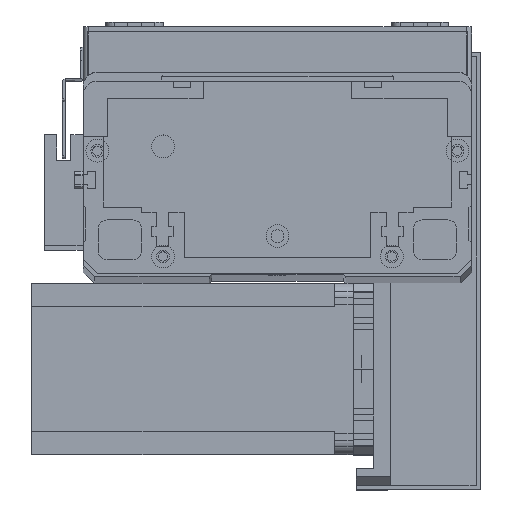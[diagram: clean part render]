
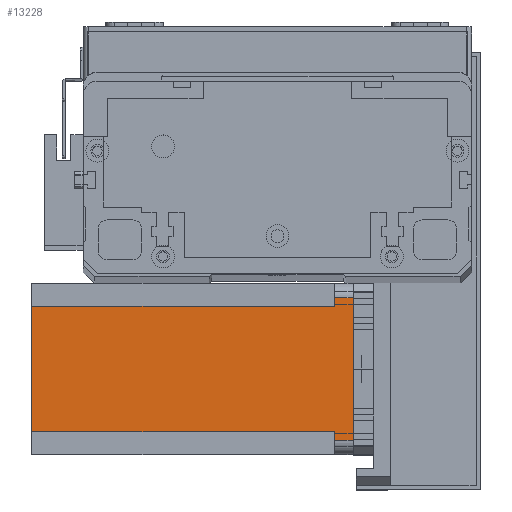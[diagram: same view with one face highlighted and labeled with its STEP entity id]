
A CAD part, top view. The second image highlights one B-rep face of the part: STEP entity #13228.
In plain terms, the highlighted planar face has unit normal (0, 0, 1) as drawn and (0, -1, 0) by its records, which use the part's own axes.
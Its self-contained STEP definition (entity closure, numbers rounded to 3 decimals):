
#280 = VECTOR ( 'NONE', #15451, 1000. ) ;
#1124 = DIRECTION ( 'NONE',  ( 1., 0., 0. ) ) ;
#1322 = EDGE_CURVE ( 'NONE', #26298, #3347, #6920, .T. ) ;
#2272 = EDGE_CURVE ( 'NONE', #26298, #23042, #12188, .T. ) ;
#2932 = VECTOR ( 'NONE', #24211, 1000. ) ;
#3347 = VERTEX_POINT ( 'NONE', #7751 ) ;
#4797 = ORIENTED_EDGE ( 'NONE', *, *, #2272, .T. ) ;
#5032 = ORIENTED_EDGE ( 'NONE', *, *, #7056, .F. ) ;
#5290 = VERTEX_POINT ( 'NONE', #14149 ) ;
#6168 = VECTOR ( 'NONE', #7026, 1000. ) ;
#6428 = CARTESIAN_POINT ( 'NONE',  ( 0., 0., -112.5 ) ) ;
#6920 = LINE ( 'NONE', #9675, #24303 ) ;
#7026 = DIRECTION ( 'NONE',  ( 0., 0., -1. ) ) ;
#7056 = EDGE_CURVE ( 'NONE', #5290, #23042, #10848, .T. ) ;
#7226 = CARTESIAN_POINT ( 'NONE',  ( 5., 0., -112.5 ) ) ;
#7751 = CARTESIAN_POINT ( 'NONE',  ( 55., 0., 0. ) ) ;
#8068 = CARTESIAN_POINT ( 'NONE',  ( 8., 0., -112.5 ) ) ;
#8084 = CARTESIAN_POINT ( 'NONE',  ( 5., 0., 0. ) ) ;
#8152 = VECTOR ( 'NONE', #1124, 1000. ) ;
#8694 = DIRECTION ( 'NONE',  ( 0., -1., 0. ) ) ;
#9675 = CARTESIAN_POINT ( 'NONE',  ( 0., 0., 0. ) ) ;
#9746 = VERTEX_POINT ( 'NONE', #17628 ) ;
#10159 = CARTESIAN_POINT ( 'NONE',  ( 0., 0., -112.5 ) ) ;
#10246 = CARTESIAN_POINT ( 'NONE',  ( 55., 0., -6.5 ) ) ;
#10253 = FACE_OUTER_BOUND ( 'NONE', #27598, .T. ) ;
#10478 = DIRECTION ( 'NONE',  ( 0., 0., -1. ) ) ;
#10848 = LINE ( 'NONE', #15736, #16178 ) ;
#11089 = DIRECTION ( 'NONE',  ( 0., 0., 1. ) ) ;
#11381 = EDGE_CURVE ( 'NONE', #20835, #9746, #14199, .T. ) ;
#12188 = LINE ( 'NONE', #7226, #6168 ) ;
#12230 = AXIS2_PLACEMENT_3D ( 'NONE', #6428, #8694, #24566 ) ;
#12232 = EDGE_CURVE ( 'NONE', #14766, #20775, #18412, .T. ) ;
#12315 = ORIENTED_EDGE ( 'NONE', *, *, #11381, .T. ) ;
#12407 = VECTOR ( 'NONE', #10478, 1000. ) ;
#12702 = EDGE_CURVE ( 'NONE', #14766, #9746, #18470, .T. ) ;
#12895 = ORIENTED_EDGE ( 'NONE', *, *, #13253, .F. ) ;
#13228 = ADVANCED_FACE ( 'NONE', ( #10253 ), #26655, .T. ) ;
#13253 = EDGE_CURVE ( 'NONE', #20835, #5290, #27637, .T. ) ;
#13837 = DIRECTION ( 'NONE',  ( 1., 0., 0. ) ) ;
#14149 = CARTESIAN_POINT ( 'NONE',  ( 8., 0., -6.5 ) ) ;
#14199 = LINE ( 'NONE', #10159, #8152 ) ;
#14766 = VERTEX_POINT ( 'NONE', #21421 ) ;
#15451 = DIRECTION ( 'NONE',  ( 1., 0., 0. ) ) ;
#15736 = CARTESIAN_POINT ( 'NONE',  ( 8., 0., -6.5 ) ) ;
#16178 = VECTOR ( 'NONE', #26946, 1000. ) ;
#17229 = CARTESIAN_POINT ( 'NONE',  ( 52., 0., -112.5 ) ) ;
#17628 = CARTESIAN_POINT ( 'NONE',  ( 52., 0., -112.5 ) ) ;
#17847 = ORIENTED_EDGE ( 'NONE', *, *, #26989, .T. ) ;
#17871 = ORIENTED_EDGE ( 'NONE', *, *, #1322, .F. ) ;
#18412 = LINE ( 'NONE', #19922, #280 ) ;
#18470 = LINE ( 'NONE', #17229, #12407 ) ;
#18808 = CARTESIAN_POINT ( 'NONE',  ( 5., 0., -6.5 ) ) ;
#19922 = CARTESIAN_POINT ( 'NONE',  ( 52., 0., -6.5 ) ) ;
#20775 = VERTEX_POINT ( 'NONE', #10246 ) ;
#20835 = VERTEX_POINT ( 'NONE', #8068 ) ;
#21001 = LINE ( 'NONE', #21909, #2932 ) ;
#21257 = ORIENTED_EDGE ( 'NONE', *, *, #12702, .F. ) ;
#21421 = CARTESIAN_POINT ( 'NONE',  ( 52., 0., -6.5 ) ) ;
#21602 = VECTOR ( 'NONE', #11089, 1000. ) ;
#21909 = CARTESIAN_POINT ( 'NONE',  ( 55., 0., -112.5 ) ) ;
#22002 = ORIENTED_EDGE ( 'NONE', *, *, #12232, .T. ) ;
#23042 = VERTEX_POINT ( 'NONE', #18808 ) ;
#24211 = DIRECTION ( 'NONE',  ( 0., 0., 1. ) ) ;
#24303 = VECTOR ( 'NONE', #13837, 1000. ) ;
#24566 = DIRECTION ( 'NONE',  ( 0., 0., -1. ) ) ;
#24662 = CARTESIAN_POINT ( 'NONE',  ( 8., 0., -112.5 ) ) ;
#26298 = VERTEX_POINT ( 'NONE', #8084 ) ;
#26655 = PLANE ( 'NONE',  #12230 ) ;
#26946 = DIRECTION ( 'NONE',  ( -1., 0., 0. ) ) ;
#26989 = EDGE_CURVE ( 'NONE', #20775, #3347, #21001, .T. ) ;
#27598 = EDGE_LOOP ( 'NONE', ( #22002, #17847, #17871, #4797, #5032, #12895, #12315, #21257 ) ) ;
#27637 = LINE ( 'NONE', #24662, #21602 ) ;
